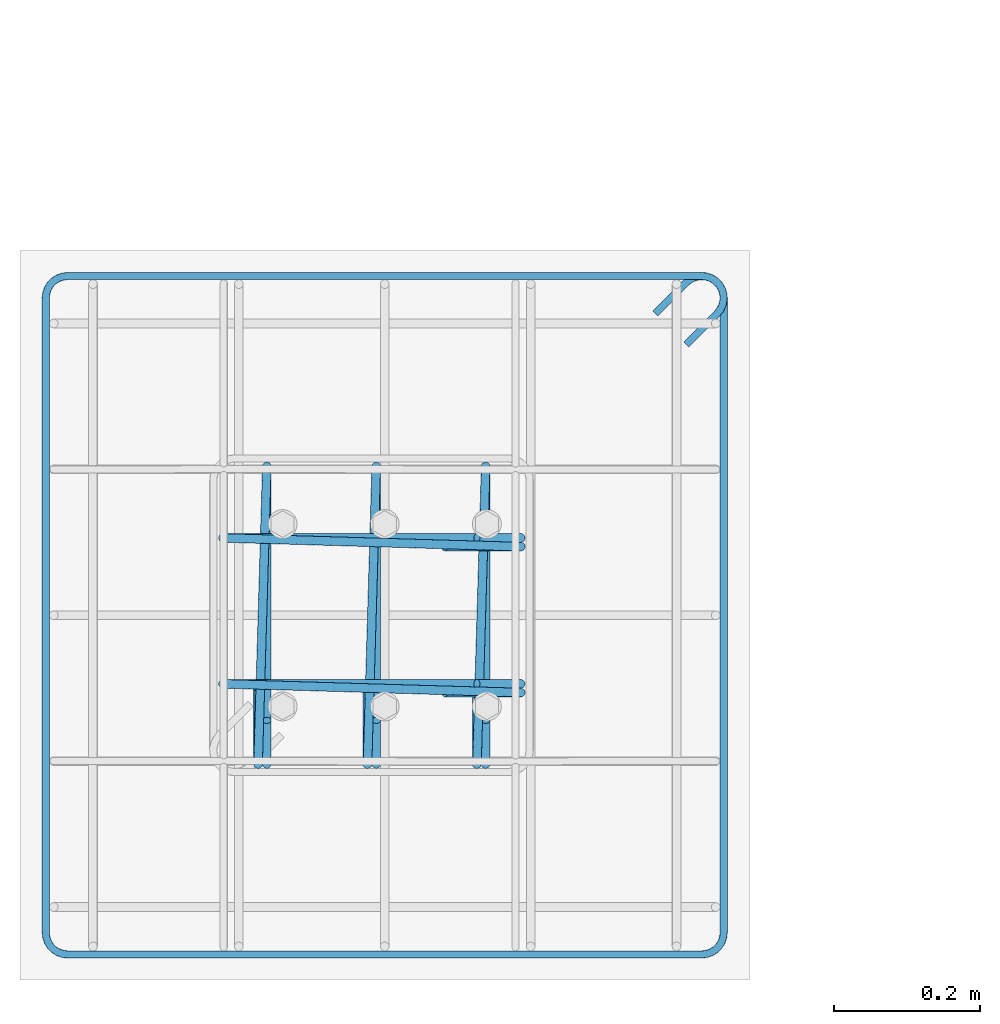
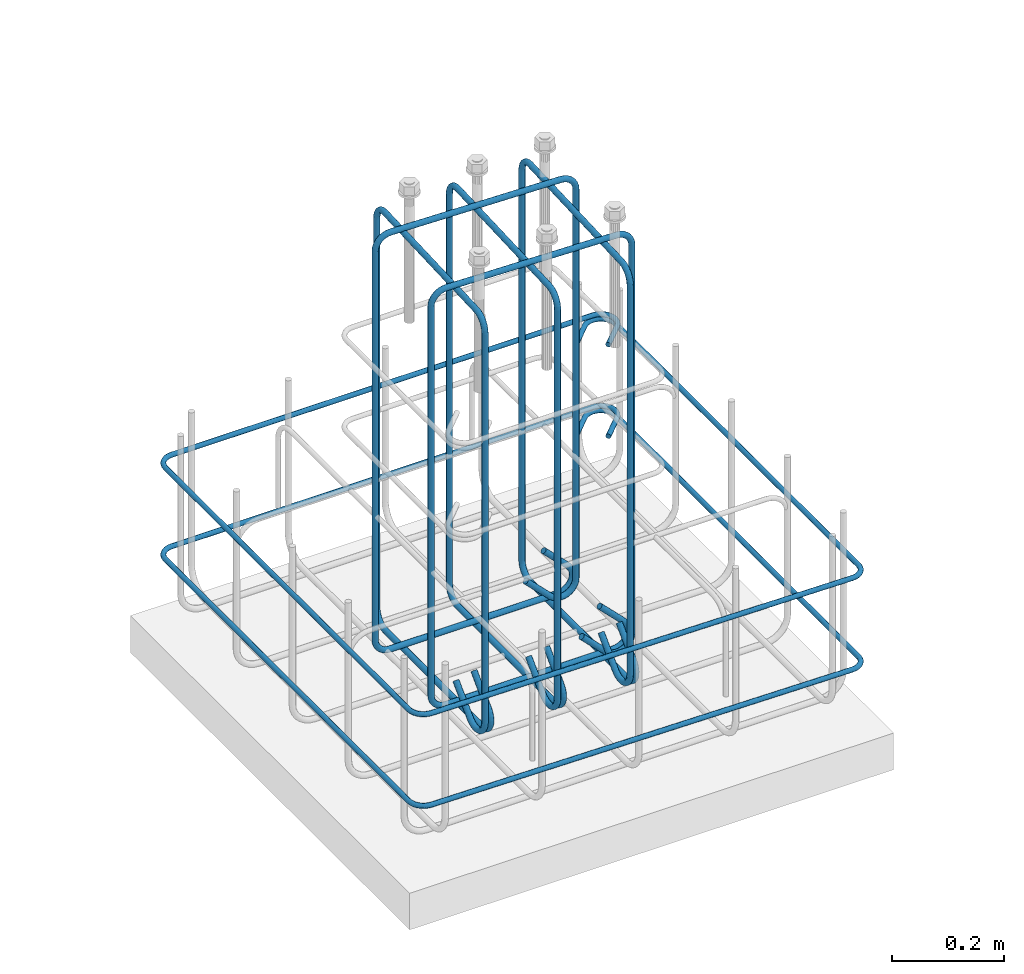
# One storey, part 2 of 12: 3 reinforcing bars.
"""IFC4X3_ADD2 building model written with IfcOpenShell, lengths in millimetres."""

from ifc_helpers import new_model, entity, si_unit, converted_unit, derived_unit, direction, frame, origin, place, context, subcontext, project, spatial, material, type_object, element, save


model = new_model("IFC4X3_ADD2")

# Units and contexts
model_context = context("Model", 3, precision=0.01, world=origin(), true_north=direction((6.123233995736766e-17, 1.0)))
plan_context = context("Plan", 3, precision=0.01, world=origin(), true_north=direction((6.123233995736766e-17, 1.0)))
body_context = subcontext(model_context, "Body", "Model", "MODEL_VIEW")
ifc_project = project(units=[si_unit("LENGTHUNIT", "METRE", prefix="MILLI"), converted_unit("PLANEANGLEUNIT", "DEGREE", entity("IfcPlaneAngleMeasure", 0.017453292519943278), si_unit("PLANEANGLEUNIT", "RADIAN"), dimensions=[0, 0, 0, 0, 0, 0, 0]), si_unit("AREAUNIT", "SQUARE_METRE"), si_unit("VOLUMEUNIT", "CUBIC_METRE"), derived_unit("THERMALTRANSMITTANCEUNIT", [(si_unit("MASSUNIT", "GRAM", prefix="KILO"), 1), (si_unit("THERMODYNAMICTEMPERATUREUNIT", "KELVIN"), -1), (si_unit("TIMEUNIT", "SECOND"), -3)]), derived_unit("USERDEFINED", [(si_unit("MASSUNIT", "GRAM", prefix="KILO"), 1), (si_unit("THERMODYNAMICTEMPERATUREUNIT", "KELVIN"), -1), (si_unit("TIMEUNIT", "SECOND"), -2)]), derived_unit("THERMALRESISTANCEUNIT", [(si_unit("MASSUNIT", "GRAM", prefix="KILO"), -1), (si_unit("TIMEUNIT", "SECOND"), 3), (si_unit("THERMODYNAMICTEMPERATUREUNIT", "KELVIN"), 1)]), si_unit("MASSUNIT", "GRAM", prefix="KILO"), derived_unit("MOMENTOFINERTIAUNIT", [(si_unit("LENGTHUNIT", "METRE"), 4)]), derived_unit("LINEARFORCEUNIT", [(si_unit("MASSUNIT", "GRAM", prefix="KILO"), 1), (si_unit("TIMEUNIT", "SECOND"), -2)]), derived_unit("WARPINGCONSTANTUNIT", [(si_unit("LENGTHUNIT", "METRE"), 6)]), si_unit("PRESSUREUNIT", "PASCAL"), derived_unit("MASSDENSITYUNIT", [(si_unit("MASSUNIT", "GRAM", prefix="KILO"), 1), (si_unit("LENGTHUNIT", "METRE"), -3)]), derived_unit("MODULUSOFELASTICITYUNIT", [(si_unit("MASSUNIT", "GRAM", prefix="KILO"), 1), (si_unit("TIMEUNIT", "SECOND"), -2), (si_unit("LENGTHUNIT", "METRE"), -1)]), derived_unit("THERMALEXPANSIONCOEFFICIENTUNIT", [(si_unit("THERMODYNAMICTEMPERATUREUNIT", "KELVIN"), -1)]), derived_unit("VAPORPERMEABILITYUNIT", [(si_unit("LENGTHUNIT", "METRE"), -1), (si_unit("TIMEUNIT", "SECOND"), 1)]), derived_unit("USERDEFINED", [(si_unit("MASSUNIT", "GRAM", prefix="KILO"), 1), (si_unit("TIMEUNIT", "SECOND"), -3), (si_unit("LENGTHUNIT", "METRE"), 3), (si_unit("ELECTRICCURRENTUNIT", "AMPERE"), -2)]), derived_unit("SPECIFICHEATCAPACITYUNIT", [(si_unit("THERMODYNAMICTEMPERATUREUNIT", "KELVIN"), -1), (si_unit("TIMEUNIT", "SECOND"), -2), (si_unit("LENGTHUNIT", "METRE"), 2)]), derived_unit("THERMALCONDUCTANCEUNIT", [(si_unit("MASSUNIT", "GRAM", prefix="KILO"), 1), (si_unit("THERMODYNAMICTEMPERATUREUNIT", "KELVIN"), -1), (si_unit("TIMEUNIT", "SECOND"), -3), (si_unit("LENGTHUNIT", "METRE"), 1)])], contexts=[model_context, plan_context])

# Site, building, storey
site_placement = place(None, origin())
site = spatial("IfcSite", under=ifc_project, at=site_placement, Name="Default", CompositionType="ELEMENT")
building_placement = place(site_placement, origin())
building = spatial("IfcBuilding", under=site, at=building_placement, Name="Complex structure", CompositionType="ELEMENT")
storey_placement = place(building_placement, frame((0.0, 0.0, -1200.0)))
storey = spatial("IfcBuildingStorey", under=building, at=storey_placement, Name="Level -03", CompositionType="ELEMENT", Elevation=-1200.0)

# Reinforcing bars
ifc_material = material(Name="Steel Rebar - B500A, B or C", Category="Unassigned")
reinforcing_bar_type_1 = type_object("IfcReinforcingBarType", Name="Rebar Bar:12mm", PredefinedType="NOTDEFINED")
reinforcing_bar_1_placement = place(storey_placement, origin())
ifc_direction_1 = entity("IfcDirection", [1.0, 0.0, 0.0])
ifc_direction_2 = entity("IfcDirection", [1.0, 0.0, 0.0])
ifc_direction_3 = entity("IfcDirection", [1.0, 0.0, 0.0])
element("IfcReinforcingBar", 1, at=reinforcing_bar_1_placement, inside=storey, type_object=reinforcing_bar_type_1, material=ifc_material, Name="Rebar Bar:12mm : Shape 52", ObjectType="Rebar Bar:12mm", context=body_context, shape_type="AdvancedSweptSolid", body=[
    entity("IfcSweptDiskSolid", entity("IfcCompositeCurve", [entity("IfcCompositeCurveSegment", "CONTINUOUS", True, entity("IfcPolyline", [entity("IfcCartesianPoint", [-13306.871550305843, -1426.8753259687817, 151.83199846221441]), entity("IfcCartesianPoint", [-13306.871550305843, -1477.7870142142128, 100.92031021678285])])), entity("IfcCompositeCurveSegment", "CONTINUOUS", True, entity("IfcTrimmedCurve", entity("IfcCircle", entity("IfcAxis2Placement3D", entity("IfcCartesianPoint", [-13306.871550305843, -1455.8667039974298, 79.0]), ifc_direction_1, entity("IfcDirection", [0.0, -0.7071067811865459, -0.7071067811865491])), 31.0), [entity("IfcParameterValue", 269.9999999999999)], [entity("IfcParameterValue", 44.99999999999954)], True, "PARAMETER")), entity("IfcCompositeCurveSegment", "CONTINUOUS", True, entity("IfcPolyline", [entity("IfcCartesianPoint", [-13306.871550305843, -1455.8667039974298, 48.0]), entity("IfcCartesianPoint", [-13306.871550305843, -1109.86670399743, 48.0])])), entity("IfcCompositeCurveSegment", "CONTINUOUS", True, entity("IfcTrimmedCurve", entity("IfcCircle", entity("IfcAxis2Placement3D", entity("IfcCartesianPoint", [-13306.871550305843, -1109.86670399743, 79.0]), ifc_direction_1, entity("IfcDirection", [0.0, 1.0, 0.0])), 31.0), [entity("IfcParameterValue", 269.9999999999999)], [entity("IfcParameterValue", 360.00000000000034)], True, "PARAMETER")), entity("IfcCompositeCurveSegment", "CONTINUOUS", True, entity("IfcPolyline", [entity("IfcCartesianPoint", [-13306.871550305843, -1078.86670399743, 79.0]), entity("IfcCartesianPoint", [-13306.871550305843, -1078.86670399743, 930.0])])), entity("IfcCompositeCurveSegment", "CONTINUOUS", True, entity("IfcTrimmedCurve", entity("IfcCircle", entity("IfcAxis2Placement3D", entity("IfcCartesianPoint", [-13307.7829209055, -1109.853304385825, 930.0]), entity("IfcDirection", [0.9995677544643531, -0.02939905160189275, 0.0]), entity("IfcDirection", [0.0, 0.0, 1.0])), 31.0), [entity("IfcParameterValue", 269.9999999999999)], [entity("IfcParameterValue", 360.00000000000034)], True, "PARAMETER")), entity("IfcCompositeCurveSegment", "CONTINUOUS", True, entity("IfcPolyline", [entity("IfcCartesianPoint", [-13307.7829209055, -1109.853304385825, 961.0]), entity("IfcCartesianPoint", [-13317.960179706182, -1455.880103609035, 961.0])])), entity("IfcCompositeCurveSegment", "CONTINUOUS", True, entity("IfcTrimmedCurve", entity("IfcCircle", entity("IfcAxis2Placement3D", entity("IfcCartesianPoint", [-13317.960179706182, -1455.880103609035, 930.0]), entity("IfcDirection", [0.9995677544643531, -0.02939905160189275, 0.0]), entity("IfcDirection", [-0.02939905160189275, -0.9995677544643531, 0.0])), 31.0), [entity("IfcParameterValue", 269.9999999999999)], [entity("IfcParameterValue", 360.00000000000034)], True, "PARAMETER")), entity("IfcCompositeCurveSegment", "CONTINUOUS", True, entity("IfcPolyline", [entity("IfcCartesianPoint", [-13318.871550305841, -1486.8667039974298, 930.0]), entity("IfcCartesianPoint", [-13318.871550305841, -1486.8667039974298, 79.0])])), entity("IfcCompositeCurveSegment", "CONTINUOUS", True, entity("IfcTrimmedCurve", entity("IfcCircle", entity("IfcAxis2Placement3D", entity("IfcCartesianPoint", [-13318.871550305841, -1455.8667039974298, 79.0]), ifc_direction_1, entity("IfcDirection", [0.0, 0.0, -1.0])), 31.0), [entity("IfcParameterValue", 269.9999999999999)], [entity("IfcParameterValue", 44.99999999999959)], True, "PARAMETER")), entity("IfcCompositeCurveSegment", "CONTINUOUS", True, entity("IfcPolyline", [entity("IfcCartesianPoint", [-13318.871550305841, -1433.9463937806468, 57.0796897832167]), entity("IfcCartesianPoint", [-13318.871550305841, -1383.0347055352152, 107.99137802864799])]))], False), 6.0, None, 0.0, 546.0000000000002),
    entity("IfcSweptDiskSolid", entity("IfcCompositeCurve", [entity("IfcCompositeCurveSegment", "CONTINUOUS", True, entity("IfcPolyline", [entity("IfcCartesianPoint", [-13156.871550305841, -1426.8753259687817, 151.83199846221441]), entity("IfcCartesianPoint", [-13156.871550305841, -1477.7870142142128, 100.92031021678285])])), entity("IfcCompositeCurveSegment", "CONTINUOUS", True, entity("IfcTrimmedCurve", entity("IfcCircle", entity("IfcAxis2Placement3D", entity("IfcCartesianPoint", [-13156.871550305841, -1455.8667039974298, 79.0]), ifc_direction_2, entity("IfcDirection", [0.0, -0.7071067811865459, -0.7071067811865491])), 31.0), [entity("IfcParameterValue", 269.9999999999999)], [entity("IfcParameterValue", 44.99999999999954)], True, "PARAMETER")), entity("IfcCompositeCurveSegment", "CONTINUOUS", True, entity("IfcPolyline", [entity("IfcCartesianPoint", [-13156.871550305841, -1455.8667039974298, 48.0]), entity("IfcCartesianPoint", [-13156.871550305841, -1109.86670399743, 48.0])])), entity("IfcCompositeCurveSegment", "CONTINUOUS", True, entity("IfcTrimmedCurve", entity("IfcCircle", entity("IfcAxis2Placement3D", entity("IfcCartesianPoint", [-13156.871550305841, -1109.86670399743, 79.0]), ifc_direction_2, entity("IfcDirection", [0.0, 1.0, 0.0])), 31.0), [entity("IfcParameterValue", 269.9999999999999)], [entity("IfcParameterValue", 360.00000000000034)], True, "PARAMETER")), entity("IfcCompositeCurveSegment", "CONTINUOUS", True, entity("IfcPolyline", [entity("IfcCartesianPoint", [-13156.871550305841, -1078.86670399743, 79.0]), entity("IfcCartesianPoint", [-13156.871550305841, -1078.86670399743, 930.0])])), entity("IfcCompositeCurveSegment", "CONTINUOUS", True, entity("IfcTrimmedCurve", entity("IfcCircle", entity("IfcAxis2Placement3D", entity("IfcCartesianPoint", [-13157.7829209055, -1109.853304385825, 930.0]), entity("IfcDirection", [0.9995677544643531, -0.02939905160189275, 0.0]), entity("IfcDirection", [0.0, 0.0, 1.0])), 31.0), [entity("IfcParameterValue", 269.9999999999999)], [entity("IfcParameterValue", 360.00000000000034)], True, "PARAMETER")), entity("IfcCompositeCurveSegment", "CONTINUOUS", True, entity("IfcPolyline", [entity("IfcCartesianPoint", [-13157.7829209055, -1109.853304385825, 961.0]), entity("IfcCartesianPoint", [-13167.960179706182, -1455.880103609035, 961.0])])), entity("IfcCompositeCurveSegment", "CONTINUOUS", True, entity("IfcTrimmedCurve", entity("IfcCircle", entity("IfcAxis2Placement3D", entity("IfcCartesianPoint", [-13167.960179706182, -1455.880103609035, 930.0]), entity("IfcDirection", [0.9995677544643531, -0.02939905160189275, 0.0]), entity("IfcDirection", [-0.02939905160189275, -0.9995677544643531, 0.0])), 31.0), [entity("IfcParameterValue", 269.9999999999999)], [entity("IfcParameterValue", 360.00000000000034)], True, "PARAMETER")), entity("IfcCompositeCurveSegment", "CONTINUOUS", True, entity("IfcPolyline", [entity("IfcCartesianPoint", [-13168.871550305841, -1486.8667039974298, 930.0]), entity("IfcCartesianPoint", [-13168.871550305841, -1486.8667039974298, 79.0])])), entity("IfcCompositeCurveSegment", "CONTINUOUS", True, entity("IfcTrimmedCurve", entity("IfcCircle", entity("IfcAxis2Placement3D", entity("IfcCartesianPoint", [-13168.871550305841, -1455.8667039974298, 79.0]), ifc_direction_2, entity("IfcDirection", [0.0, 0.0, -1.0])), 31.0), [entity("IfcParameterValue", 269.9999999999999)], [entity("IfcParameterValue", 44.99999999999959)], True, "PARAMETER")), entity("IfcCompositeCurveSegment", "CONTINUOUS", True, entity("IfcPolyline", [entity("IfcCartesianPoint", [-13168.871550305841, -1433.9463937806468, 57.0796897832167]), entity("IfcCartesianPoint", [-13168.871550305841, -1383.0347055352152, 107.99137802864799])]))], False), 6.0, None, 0.0, 546.0000000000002),
    entity("IfcSweptDiskSolid", entity("IfcCompositeCurve", [entity("IfcCompositeCurveSegment", "CONTINUOUS", True, entity("IfcPolyline", [entity("IfcCartesianPoint", [-13006.871550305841, -1426.8753259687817, 151.83199846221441]), entity("IfcCartesianPoint", [-13006.871550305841, -1477.7870142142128, 100.92031021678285])])), entity("IfcCompositeCurveSegment", "CONTINUOUS", True, entity("IfcTrimmedCurve", entity("IfcCircle", entity("IfcAxis2Placement3D", entity("IfcCartesianPoint", [-13006.871550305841, -1455.8667039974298, 79.0]), ifc_direction_3, entity("IfcDirection", [0.0, -0.7071067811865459, -0.7071067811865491])), 31.0), [entity("IfcParameterValue", 269.9999999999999)], [entity("IfcParameterValue", 44.99999999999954)], True, "PARAMETER")), entity("IfcCompositeCurveSegment", "CONTINUOUS", True, entity("IfcPolyline", [entity("IfcCartesianPoint", [-13006.871550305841, -1455.8667039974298, 48.0]), entity("IfcCartesianPoint", [-13006.871550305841, -1109.86670399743, 48.0])])), entity("IfcCompositeCurveSegment", "CONTINUOUS", True, entity("IfcTrimmedCurve", entity("IfcCircle", entity("IfcAxis2Placement3D", entity("IfcCartesianPoint", [-13006.871550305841, -1109.86670399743, 79.0]), ifc_direction_3, entity("IfcDirection", [0.0, 1.0, 0.0])), 31.0), [entity("IfcParameterValue", 269.9999999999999)], [entity("IfcParameterValue", 360.00000000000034)], True, "PARAMETER")), entity("IfcCompositeCurveSegment", "CONTINUOUS", True, entity("IfcPolyline", [entity("IfcCartesianPoint", [-13006.871550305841, -1078.86670399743, 79.0]), entity("IfcCartesianPoint", [-13006.871550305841, -1078.86670399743, 930.0])])), entity("IfcCompositeCurveSegment", "CONTINUOUS", True, entity("IfcTrimmedCurve", entity("IfcCircle", entity("IfcAxis2Placement3D", entity("IfcCartesianPoint", [-13007.7829209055, -1109.853304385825, 930.0]), entity("IfcDirection", [0.9995677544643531, -0.02939905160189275, 0.0]), entity("IfcDirection", [0.0, 0.0, 1.0])), 31.0), [entity("IfcParameterValue", 269.9999999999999)], [entity("IfcParameterValue", 360.00000000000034)], True, "PARAMETER")), entity("IfcCompositeCurveSegment", "CONTINUOUS", True, entity("IfcPolyline", [entity("IfcCartesianPoint", [-13007.7829209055, -1109.853304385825, 961.0]), entity("IfcCartesianPoint", [-13017.960179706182, -1455.880103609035, 961.0])])), entity("IfcCompositeCurveSegment", "CONTINUOUS", True, entity("IfcTrimmedCurve", entity("IfcCircle", entity("IfcAxis2Placement3D", entity("IfcCartesianPoint", [-13017.960179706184, -1455.880103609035, 930.0]), entity("IfcDirection", [0.9995677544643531, -0.02939905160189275, 0.0]), entity("IfcDirection", [-0.02939905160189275, -0.9995677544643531, 0.0])), 31.0), [entity("IfcParameterValue", 269.9999999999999)], [entity("IfcParameterValue", 360.00000000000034)], True, "PARAMETER")), entity("IfcCompositeCurveSegment", "CONTINUOUS", True, entity("IfcPolyline", [entity("IfcCartesianPoint", [-13018.871550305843, -1486.8667039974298, 930.0]), entity("IfcCartesianPoint", [-13018.871550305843, -1486.8667039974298, 79.0])])), entity("IfcCompositeCurveSegment", "CONTINUOUS", True, entity("IfcTrimmedCurve", entity("IfcCircle", entity("IfcAxis2Placement3D", entity("IfcCartesianPoint", [-13018.871550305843, -1455.8667039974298, 79.0]), ifc_direction_3, entity("IfcDirection", [0.0, 0.0, -1.0])), 31.0), [entity("IfcParameterValue", 269.9999999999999)], [entity("IfcParameterValue", 44.99999999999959)], True, "PARAMETER")), entity("IfcCompositeCurveSegment", "CONTINUOUS", True, entity("IfcPolyline", [entity("IfcCartesianPoint", [-13018.871550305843, -1433.9463937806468, 57.0796897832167]), entity("IfcCartesianPoint", [-13018.871550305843, -1383.0347055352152, 107.99137802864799])]))], False), 6.0, None, 0.0, 546.0000000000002),
])
reinforcing_bar_2_placement = place(storey_placement, origin())
ifc_direction_4 = entity("IfcDirection", [0.0, 1.0, 0.0])
ifc_direction_5 = entity("IfcDirection", [0.0, 1.0, 0.0])
element("IfcReinforcingBar", 2, at=reinforcing_bar_2_placement, inside=storey, type_object=reinforcing_bar_type_1, material=ifc_material, Name="Rebar Bar:12mm : Shape 52", ObjectType="Rebar Bar:12mm", context=body_context, shape_type="AdvancedSweptSolid", body=[
    entity("IfcSweptDiskSolid", entity("IfcCompositeCurve", [entity("IfcCompositeCurveSegment", "CONTINUOUS", True, entity("IfcPolyline", [entity("IfcCartesianPoint", [-13018.86292833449, -1376.866703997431, 161.83199846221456]), entity("IfcCartesianPoint", [-12967.95124008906, -1376.8667039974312, 110.92031021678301])])), entity("IfcCompositeCurveSegment", "CONTINUOUS", True, entity("IfcTrimmedCurve", entity("IfcCircle", entity("IfcAxis2Placement3D", entity("IfcCartesianPoint", [-12989.871550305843, -1376.8667039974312, 89.0]), ifc_direction_4, entity("IfcDirection", [0.7071067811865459, 0.0, -0.7071067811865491])), 31.0), [entity("IfcParameterValue", 269.9999999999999)], [entity("IfcParameterValue", 44.99999999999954)], True, "PARAMETER")), entity("IfcCompositeCurveSegment", "CONTINUOUS", True, entity("IfcPolyline", [entity("IfcCartesianPoint", [-12989.871550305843, -1376.8667039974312, 58.0]), entity("IfcCartesianPoint", [-13335.871550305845, -1376.8667039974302, 58.0])])), entity("IfcCompositeCurveSegment", "CONTINUOUS", True, entity("IfcTrimmedCurve", entity("IfcCircle", entity("IfcAxis2Placement3D", entity("IfcCartesianPoint", [-13335.871550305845, -1376.8667039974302, 89.0]), ifc_direction_4, entity("IfcDirection", [-1.0, 0.0, 0.0])), 31.0), [entity("IfcParameterValue", 269.9999999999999)], [entity("IfcParameterValue", 360.00000000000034)], True, "PARAMETER")), entity("IfcCompositeCurveSegment", "CONTINUOUS", True, entity("IfcPolyline", [entity("IfcCartesianPoint", [-13366.871550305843, -1376.8667039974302, 89.0]), entity("IfcCartesianPoint", [-13366.871550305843, -1376.8667039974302, 938.0])])), entity("IfcCompositeCurveSegment", "CONTINUOUS", True, entity("IfcTrimmedCurve", entity("IfcCircle", entity("IfcAxis2Placement3D", entity("IfcCartesianPoint", [-13335.884949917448, -1377.7780745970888, 938.0]), entity("IfcDirection", [0.029399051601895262, 0.9995677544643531, 0.0]), entity("IfcDirection", [0.0, 0.0, 1.0])), 31.0), [entity("IfcParameterValue", 269.9999999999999)], [entity("IfcParameterValue", 360.00000000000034)], True, "PARAMETER")), entity("IfcCompositeCurveSegment", "CONTINUOUS", True, entity("IfcPolyline", [entity("IfcCartesianPoint", [-13335.884949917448, -1377.7780745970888, 969.0]), entity("IfcCartesianPoint", [-12989.858150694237, -1387.9553333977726, 969.0])])), entity("IfcCompositeCurveSegment", "CONTINUOUS", True, entity("IfcTrimmedCurve", entity("IfcCircle", entity("IfcAxis2Placement3D", entity("IfcCartesianPoint", [-12989.858150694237, -1387.9553333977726, 938.0]), entity("IfcDirection", [0.029399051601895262, 0.9995677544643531, 0.0]), entity("IfcDirection", [0.9995677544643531, -0.029399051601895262, 0.0])), 31.0), [entity("IfcParameterValue", 269.9999999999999)], [entity("IfcParameterValue", 360.00000000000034)], True, "PARAMETER")), entity("IfcCompositeCurveSegment", "CONTINUOUS", True, entity("IfcPolyline", [entity("IfcCartesianPoint", [-12958.871550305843, -1388.8667039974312, 938.0]), entity("IfcCartesianPoint", [-12958.871550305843, -1388.8667039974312, 89.0])])), entity("IfcCompositeCurveSegment", "CONTINUOUS", True, entity("IfcTrimmedCurve", entity("IfcCircle", entity("IfcAxis2Placement3D", entity("IfcCartesianPoint", [-12989.871550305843, -1388.8667039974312, 89.0]), ifc_direction_4, entity("IfcDirection", [0.0, 0.0, -1.0])), 31.0), [entity("IfcParameterValue", 269.9999999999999)], [entity("IfcParameterValue", 44.99999999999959)], True, "PARAMETER")), entity("IfcCompositeCurveSegment", "CONTINUOUS", True, entity("IfcPolyline", [entity("IfcCartesianPoint", [-13011.791860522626, -1388.866703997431, 67.07968978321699]), entity("IfcCartesianPoint", [-13062.703548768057, -1388.8667039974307, 117.99137802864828])]))], False), 6.0, None, 0.0, 546.0000000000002),
    entity("IfcSweptDiskSolid", entity("IfcCompositeCurve", [entity("IfcCompositeCurveSegment", "CONTINUOUS", True, entity("IfcPolyline", [entity("IfcCartesianPoint", [-13018.86292833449, -1176.8667039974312, 161.83199846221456]), entity("IfcCartesianPoint", [-12967.95124008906, -1176.8667039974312, 110.92031021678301])])), entity("IfcCompositeCurveSegment", "CONTINUOUS", True, entity("IfcTrimmedCurve", entity("IfcCircle", entity("IfcAxis2Placement3D", entity("IfcCartesianPoint", [-12989.871550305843, -1176.8667039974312, 89.0]), ifc_direction_5, entity("IfcDirection", [0.7071067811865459, 0.0, -0.7071067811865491])), 31.0), [entity("IfcParameterValue", 269.9999999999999)], [entity("IfcParameterValue", 44.99999999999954)], True, "PARAMETER")), entity("IfcCompositeCurveSegment", "CONTINUOUS", True, entity("IfcPolyline", [entity("IfcCartesianPoint", [-12989.871550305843, -1176.8667039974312, 58.0]), entity("IfcCartesianPoint", [-13335.871550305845, -1176.8667039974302, 58.0])])), entity("IfcCompositeCurveSegment", "CONTINUOUS", True, entity("IfcTrimmedCurve", entity("IfcCircle", entity("IfcAxis2Placement3D", entity("IfcCartesianPoint", [-13335.871550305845, -1176.8667039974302, 89.0]), ifc_direction_5, entity("IfcDirection", [-1.0, 0.0, 0.0])), 31.0), [entity("IfcParameterValue", 269.9999999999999)], [entity("IfcParameterValue", 360.00000000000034)], True, "PARAMETER")), entity("IfcCompositeCurveSegment", "CONTINUOUS", True, entity("IfcPolyline", [entity("IfcCartesianPoint", [-13366.871550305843, -1176.8667039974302, 89.0]), entity("IfcCartesianPoint", [-13366.871550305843, -1176.8667039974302, 938.0])])), entity("IfcCompositeCurveSegment", "CONTINUOUS", True, entity("IfcTrimmedCurve", entity("IfcCircle", entity("IfcAxis2Placement3D", entity("IfcCartesianPoint", [-13335.884949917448, -1177.7780745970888, 938.0]), entity("IfcDirection", [0.029399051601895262, 0.9995677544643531, 0.0]), entity("IfcDirection", [0.0, 0.0, 1.0])), 31.0), [entity("IfcParameterValue", 269.9999999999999)], [entity("IfcParameterValue", 360.00000000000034)], True, "PARAMETER")), entity("IfcCompositeCurveSegment", "CONTINUOUS", True, entity("IfcPolyline", [entity("IfcCartesianPoint", [-13335.884949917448, -1177.778074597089, 969.0]), entity("IfcCartesianPoint", [-12989.858150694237, -1187.9553333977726, 969.0])])), entity("IfcCompositeCurveSegment", "CONTINUOUS", True, entity("IfcTrimmedCurve", entity("IfcCircle", entity("IfcAxis2Placement3D", entity("IfcCartesianPoint", [-12989.858150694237, -1187.9553333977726, 938.0]), entity("IfcDirection", [0.029399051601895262, 0.9995677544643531, 0.0]), entity("IfcDirection", [0.9995677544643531, -0.029399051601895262, 0.0])), 31.0), [entity("IfcParameterValue", 269.9999999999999)], [entity("IfcParameterValue", 360.00000000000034)], True, "PARAMETER")), entity("IfcCompositeCurveSegment", "CONTINUOUS", True, entity("IfcPolyline", [entity("IfcCartesianPoint", [-12958.871550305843, -1188.8667039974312, 938.0]), entity("IfcCartesianPoint", [-12958.871550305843, -1188.8667039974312, 89.0])])), entity("IfcCompositeCurveSegment", "CONTINUOUS", True, entity("IfcTrimmedCurve", entity("IfcCircle", entity("IfcAxis2Placement3D", entity("IfcCartesianPoint", [-12989.871550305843, -1188.8667039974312, 89.0]), ifc_direction_5, entity("IfcDirection", [0.0, 0.0, -1.0])), 31.0), [entity("IfcParameterValue", 269.9999999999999)], [entity("IfcParameterValue", 44.99999999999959)], True, "PARAMETER")), entity("IfcCompositeCurveSegment", "CONTINUOUS", True, entity("IfcPolyline", [entity("IfcCartesianPoint", [-13011.791860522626, -1188.866703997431, 67.07968978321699]), entity("IfcCartesianPoint", [-13062.703548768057, -1188.866703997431, 117.99137802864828])]))], False), 6.0, None, 0.0, 546.0000000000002),
])
reinforcing_bar_type_2 = type_object("IfcReinforcingBarType", Name="Rebar Bar:10mm", PredefinedType="NOTDEFINED")
reinforcing_bar_3_placement = place(storey_placement, origin())
ifc_direction_6 = entity("IfcDirection", [0.0, 0.0, 1.0])
ifc_direction_7 = entity("IfcDirection", [0.0, 0.0, 1.0])
element("IfcReinforcingBar", 3, at=reinforcing_bar_3_placement, inside=storey, type_object=reinforcing_bar_type_2, material=ifc_material, Name="Rebar Bar:10mm : Shape 52", ObjectType="Rebar Bar:10mm", context=body_context, shape_type="AdvancedSweptSolid", body=[
    entity("IfcSweptDiskSolid", entity("IfcCompositeCurve", [entity("IfcCompositeCurveSegment", "CONTINUOUS", True, entity("IfcPolyline", [entity("IfcCartesianPoint", [-12731.784753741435, -911.5063143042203, 150.0]), entity("IfcCartesianPoint", [-12689.35834687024, -869.0799074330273, 150.0])])), entity("IfcCompositeCurveSegment", "CONTINUOUS", True, entity("IfcTrimmedCurve", entity("IfcCircle", entity("IfcAxis2Placement3D", entity("IfcCartesianPoint", [-12710.571550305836, -847.8667039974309, 150.0]), ifc_direction_6, entity("IfcDirection", [0.7071067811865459, 0.7071067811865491, 0.0])), 30.000000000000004), [entity("IfcParameterValue", 269.9999999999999)], [entity("IfcParameterValue", 44.99999999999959)], True, "PARAMETER")), entity("IfcCompositeCurveSegment", "CONTINUOUS", True, entity("IfcPolyline", [entity("IfcCartesianPoint", [-12710.571550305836, -817.8667039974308, 150.0]), entity("IfcCartesianPoint", [-13579.871550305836, -817.8667039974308, 150.0])])), entity("IfcCompositeCurveSegment", "CONTINUOUS", True, entity("IfcTrimmedCurve", entity("IfcCircle", entity("IfcAxis2Placement3D", entity("IfcCartesianPoint", [-13579.871550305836, -847.8667039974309, 150.0]), ifc_direction_6, entity("IfcDirection", [-1.0, 0.0, 0.0])), 30.000000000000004), [entity("IfcParameterValue", 269.9999999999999)], [entity("IfcParameterValue", 360.00000000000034)], True, "PARAMETER")), entity("IfcCompositeCurveSegment", "CONTINUOUS", True, entity("IfcPolyline", [entity("IfcCartesianPoint", [-13609.871550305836, -847.8667039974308, 150.0]), entity("IfcCartesianPoint", [-13609.871550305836, -1717.86670399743, 150.0])])), entity("IfcCompositeCurveSegment", "CONTINUOUS", True, entity("IfcTrimmedCurve", entity("IfcCircle", entity("IfcAxis2Placement3D", entity("IfcCartesianPoint", [-13579.873287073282, -1717.86670399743, 149.67719505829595]), entity("IfcDirection", [0.010760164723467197, 0.0, 0.9999421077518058]), entity("IfcDirection", [0.0, -1.0, 0.0])), 30.000000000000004), [entity("IfcParameterValue", 269.9999999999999)], [entity("IfcParameterValue", 360.00000000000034)], True, "PARAMETER")), entity("IfcCompositeCurveSegment", "CONTINUOUS", True, entity("IfcPolyline", [entity("IfcCartesianPoint", [-13579.873287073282, -1747.86670399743, 149.67719505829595]), entity("IfcCartesianPoint", [-12710.569813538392, -1747.86670399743, 140.32280494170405])])), entity("IfcCompositeCurveSegment", "CONTINUOUS", True, entity("IfcTrimmedCurve", entity("IfcCircle", entity("IfcAxis2Placement3D", entity("IfcCartesianPoint", [-12710.56981353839, -1717.86670399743, 140.32280494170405]), entity("IfcDirection", [0.010760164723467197, 0.0, 0.9999421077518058]), entity("IfcDirection", [0.9999421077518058, 0.0, -0.010760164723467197])), 30.000000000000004), [entity("IfcParameterValue", 269.9999999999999)], [entity("IfcParameterValue", 360.00000000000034)], True, "PARAMETER")), entity("IfcCompositeCurveSegment", "CONTINUOUS", True, entity("IfcPolyline", [entity("IfcCartesianPoint", [-12680.571550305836, -1717.86670399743, 140.0]), entity("IfcCartesianPoint", [-12680.571550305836, -847.8667039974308, 140.0])])), entity("IfcCompositeCurveSegment", "CONTINUOUS", True, entity("IfcTrimmedCurve", entity("IfcCircle", entity("IfcAxis2Placement3D", entity("IfcCartesianPoint", [-12710.571550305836, -847.8667039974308, 140.0]), ifc_direction_6, entity("IfcDirection", [0.0, 1.0, 0.0])), 30.000000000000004), [entity("IfcParameterValue", 269.9999999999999)], [entity("IfcParameterValue", 44.99999999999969)], True, "PARAMETER")), entity("IfcCompositeCurveSegment", "CONTINUOUS", True, entity("IfcPolyline", [entity("IfcCartesianPoint", [-12731.784753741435, -826.6535005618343, 140.0]), entity("IfcCartesianPoint", [-12774.211160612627, -869.079907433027, 140.0])]))], False), 5.0, None, 0.0, 546.0000000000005),
    entity("IfcSweptDiskSolid", entity("IfcCompositeCurve", [entity("IfcCompositeCurveSegment", "CONTINUOUS", True, entity("IfcPolyline", [entity("IfcCartesianPoint", [-12731.784753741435, -911.5063143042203, 350.0]), entity("IfcCartesianPoint", [-12689.35834687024, -869.0799074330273, 350.0])])), entity("IfcCompositeCurveSegment", "CONTINUOUS", True, entity("IfcTrimmedCurve", entity("IfcCircle", entity("IfcAxis2Placement3D", entity("IfcCartesianPoint", [-12710.571550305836, -847.8667039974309, 350.0]), ifc_direction_7, entity("IfcDirection", [0.7071067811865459, 0.7071067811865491, 0.0])), 30.000000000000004), [entity("IfcParameterValue", 269.9999999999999)], [entity("IfcParameterValue", 44.99999999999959)], True, "PARAMETER")), entity("IfcCompositeCurveSegment", "CONTINUOUS", True, entity("IfcPolyline", [entity("IfcCartesianPoint", [-12710.571550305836, -817.8667039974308, 350.0]), entity("IfcCartesianPoint", [-13579.871550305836, -817.8667039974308, 350.0])])), entity("IfcCompositeCurveSegment", "CONTINUOUS", True, entity("IfcTrimmedCurve", entity("IfcCircle", entity("IfcAxis2Placement3D", entity("IfcCartesianPoint", [-13579.871550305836, -847.8667039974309, 350.0]), ifc_direction_7, entity("IfcDirection", [-1.0, 0.0, 0.0])), 30.000000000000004), [entity("IfcParameterValue", 269.9999999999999)], [entity("IfcParameterValue", 360.00000000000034)], True, "PARAMETER")), entity("IfcCompositeCurveSegment", "CONTINUOUS", True, entity("IfcPolyline", [entity("IfcCartesianPoint", [-13609.871550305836, -847.8667039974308, 350.0]), entity("IfcCartesianPoint", [-13609.871550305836, -1717.86670399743, 350.0])])), entity("IfcCompositeCurveSegment", "CONTINUOUS", True, entity("IfcTrimmedCurve", entity("IfcCircle", entity("IfcAxis2Placement3D", entity("IfcCartesianPoint", [-13579.873287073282, -1717.86670399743, 349.677195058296]), entity("IfcDirection", [0.010760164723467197, 0.0, 0.9999421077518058]), entity("IfcDirection", [0.0, -1.0, 0.0])), 30.000000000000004), [entity("IfcParameterValue", 269.9999999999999)], [entity("IfcParameterValue", 360.00000000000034)], True, "PARAMETER")), entity("IfcCompositeCurveSegment", "CONTINUOUS", True, entity("IfcPolyline", [entity("IfcCartesianPoint", [-13579.873287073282, -1747.86670399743, 349.677195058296]), entity("IfcCartesianPoint", [-12710.569813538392, -1747.86670399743, 340.3228049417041])])), entity("IfcCompositeCurveSegment", "CONTINUOUS", True, entity("IfcTrimmedCurve", entity("IfcCircle", entity("IfcAxis2Placement3D", entity("IfcCartesianPoint", [-12710.56981353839, -1717.86670399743, 340.3228049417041]), entity("IfcDirection", [0.010760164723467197, 0.0, 0.9999421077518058]), entity("IfcDirection", [0.9999421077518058, 0.0, -0.010760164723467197])), 30.000000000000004), [entity("IfcParameterValue", 269.9999999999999)], [entity("IfcParameterValue", 360.00000000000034)], True, "PARAMETER")), entity("IfcCompositeCurveSegment", "CONTINUOUS", True, entity("IfcPolyline", [entity("IfcCartesianPoint", [-12680.571550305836, -1717.86670399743, 340.0]), entity("IfcCartesianPoint", [-12680.571550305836, -847.8667039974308, 340.0])])), entity("IfcCompositeCurveSegment", "CONTINUOUS", True, entity("IfcTrimmedCurve", entity("IfcCircle", entity("IfcAxis2Placement3D", entity("IfcCartesianPoint", [-12710.571550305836, -847.8667039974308, 340.0]), ifc_direction_7, entity("IfcDirection", [0.0, 1.0, 0.0])), 30.000000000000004), [entity("IfcParameterValue", 269.9999999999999)], [entity("IfcParameterValue", 44.99999999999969)], True, "PARAMETER")), entity("IfcCompositeCurveSegment", "CONTINUOUS", True, entity("IfcPolyline", [entity("IfcCartesianPoint", [-12731.784753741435, -826.6535005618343, 340.0]), entity("IfcCartesianPoint", [-12774.211160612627, -869.079907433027, 340.0])]))], False), 5.0, None, 0.0, 546.0000000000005),
])

save(model, "model.ifc")
